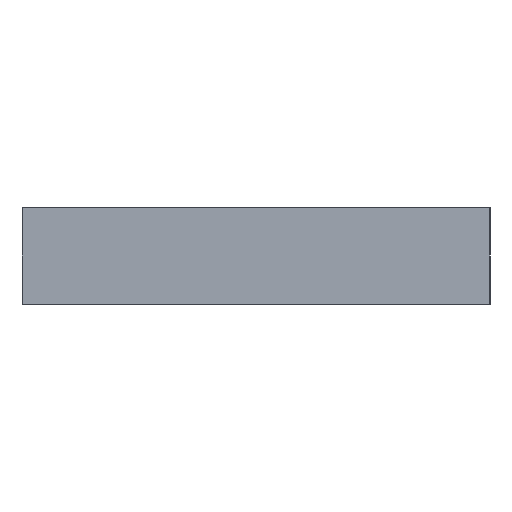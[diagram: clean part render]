
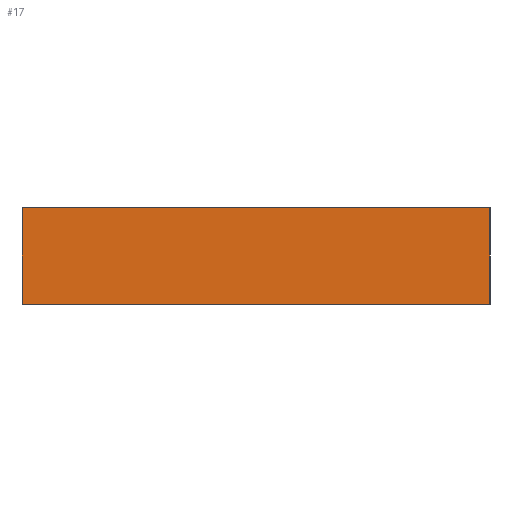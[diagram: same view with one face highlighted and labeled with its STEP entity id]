
A CAD part, left-side view. The second image highlights one B-rep face of the part: STEP entity #17.
In plain terms, the highlighted planar face has unit normal (-1, 0, 0).
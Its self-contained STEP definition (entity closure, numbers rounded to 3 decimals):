
#17 = ADVANCED_FACE('',(#18),#32,.F.);
#18 = FACE_BOUND('',#19,.F.);
#19 = EDGE_LOOP('',(#20,#55,#83,#111));
#20 = ORIENTED_EDGE('',*,*,#21,.F.);
#21 = EDGE_CURVE('',#22,#24,#26,.T.);
#22 = VERTEX_POINT('',#23);
#23 = CARTESIAN_POINT('',(-169.,-6.,-66.));
#24 = VERTEX_POINT('',#25);
#25 = CARTESIAN_POINT('',(-169.,-6.,-6.));
#26 = SURFACE_CURVE('',#27,(#31,#43),.PCURVE_S1.);
#27 = LINE('',#28,#29);
#28 = CARTESIAN_POINT('',(-169.,-6.,-66.));
#29 = VECTOR('',#30,1.);
#30 = DIRECTION('',(0.,0.,1.));
#31 = PCURVE('',#32,#37);
#32 = PLANE('',#33);
#33 = AXIS2_PLACEMENT_3D('',#34,#35,#36);
#34 = CARTESIAN_POINT('',(-169.,-6.,-66.));
#35 = DIRECTION('',(1.,0.,0.));
#36 = DIRECTION('',(0.,0.,1.));
#37 = DEFINITIONAL_REPRESENTATION('',(#38),#42);
#38 = LINE('',#39,#40);
#39 = CARTESIAN_POINT('',(0.,0.));
#40 = VECTOR('',#41,1.);
#41 = DIRECTION('',(1.,0.));
#42 = ( GEOMETRIC_REPRESENTATION_CONTEXT(2) 
PARAMETRIC_REPRESENTATION_CONTEXT() REPRESENTATION_CONTEXT('2D SPACE',''
  ) );
#43 = PCURVE('',#44,#49);
#44 = PLANE('',#45);
#45 = AXIS2_PLACEMENT_3D('',#46,#47,#48);
#46 = CARTESIAN_POINT('',(-169.,-6.,-66.));
#47 = DIRECTION('',(0.,1.,0.));
#48 = DIRECTION('',(0.,0.,1.));
#49 = DEFINITIONAL_REPRESENTATION('',(#50),#54);
#50 = LINE('',#51,#52);
#51 = CARTESIAN_POINT('',(0.,0.));
#52 = VECTOR('',#53,1.);
#53 = DIRECTION('',(1.,0.));
#54 = ( GEOMETRIC_REPRESENTATION_CONTEXT(2) 
PARAMETRIC_REPRESENTATION_CONTEXT() REPRESENTATION_CONTEXT('2D SPACE',''
  ) );
#55 = ORIENTED_EDGE('',*,*,#56,.T.);
#56 = EDGE_CURVE('',#22,#57,#59,.T.);
#57 = VERTEX_POINT('',#58);
#58 = CARTESIAN_POINT('',(-169.,286.,-66.));
#59 = SURFACE_CURVE('',#60,(#64,#71),.PCURVE_S1.);
#60 = LINE('',#61,#62);
#61 = CARTESIAN_POINT('',(-169.,-6.,-66.));
#62 = VECTOR('',#63,1.);
#63 = DIRECTION('',(0.,1.,0.));
#64 = PCURVE('',#32,#65);
#65 = DEFINITIONAL_REPRESENTATION('',(#66),#70);
#66 = LINE('',#67,#68);
#67 = CARTESIAN_POINT('',(0.,0.));
#68 = VECTOR('',#69,1.);
#69 = DIRECTION('',(0.,-1.));
#70 = ( GEOMETRIC_REPRESENTATION_CONTEXT(2) 
PARAMETRIC_REPRESENTATION_CONTEXT() REPRESENTATION_CONTEXT('2D SPACE',''
  ) );
#71 = PCURVE('',#72,#77);
#72 = PLANE('',#73);
#73 = AXIS2_PLACEMENT_3D('',#74,#75,#76);
#74 = CARTESIAN_POINT('',(-169.,-6.,-66.));
#75 = DIRECTION('',(0.,0.,1.));
#76 = DIRECTION('',(1.,0.,0.));
#77 = DEFINITIONAL_REPRESENTATION('',(#78),#82);
#78 = LINE('',#79,#80);
#79 = CARTESIAN_POINT('',(0.,0.));
#80 = VECTOR('',#81,1.);
#81 = DIRECTION('',(0.,1.));
#82 = ( GEOMETRIC_REPRESENTATION_CONTEXT(2) 
PARAMETRIC_REPRESENTATION_CONTEXT() REPRESENTATION_CONTEXT('2D SPACE',''
  ) );
#83 = ORIENTED_EDGE('',*,*,#84,.T.);
#84 = EDGE_CURVE('',#57,#85,#87,.T.);
#85 = VERTEX_POINT('',#86);
#86 = CARTESIAN_POINT('',(-169.,286.,-6.));
#87 = SURFACE_CURVE('',#88,(#92,#99),.PCURVE_S1.);
#88 = LINE('',#89,#90);
#89 = CARTESIAN_POINT('',(-169.,286.,-66.));
#90 = VECTOR('',#91,1.);
#91 = DIRECTION('',(0.,0.,1.));
#92 = PCURVE('',#32,#93);
#93 = DEFINITIONAL_REPRESENTATION('',(#94),#98);
#94 = LINE('',#95,#96);
#95 = CARTESIAN_POINT('',(0.,-292.));
#96 = VECTOR('',#97,1.);
#97 = DIRECTION('',(1.,0.));
#98 = ( GEOMETRIC_REPRESENTATION_CONTEXT(2) 
PARAMETRIC_REPRESENTATION_CONTEXT() REPRESENTATION_CONTEXT('2D SPACE',''
  ) );
#99 = PCURVE('',#100,#105);
#100 = PLANE('',#101);
#101 = AXIS2_PLACEMENT_3D('',#102,#103,#104);
#102 = CARTESIAN_POINT('',(-169.,286.,-66.));
#103 = DIRECTION('',(0.,1.,0.));
#104 = DIRECTION('',(0.,0.,1.));
#105 = DEFINITIONAL_REPRESENTATION('',(#106),#110);
#106 = LINE('',#107,#108);
#107 = CARTESIAN_POINT('',(0.,0.));
#108 = VECTOR('',#109,1.);
#109 = DIRECTION('',(1.,0.));
#110 = ( GEOMETRIC_REPRESENTATION_CONTEXT(2) 
PARAMETRIC_REPRESENTATION_CONTEXT() REPRESENTATION_CONTEXT('2D SPACE',''
  ) );
#111 = ORIENTED_EDGE('',*,*,#112,.F.);
#112 = EDGE_CURVE('',#24,#85,#113,.T.);
#113 = SURFACE_CURVE('',#114,(#118,#125),.PCURVE_S1.);
#114 = LINE('',#115,#116);
#115 = CARTESIAN_POINT('',(-169.,-6.,-6.));
#116 = VECTOR('',#117,1.);
#117 = DIRECTION('',(0.,1.,0.));
#118 = PCURVE('',#32,#119);
#119 = DEFINITIONAL_REPRESENTATION('',(#120),#124);
#120 = LINE('',#121,#122);
#121 = CARTESIAN_POINT('',(60.,0.));
#122 = VECTOR('',#123,1.);
#123 = DIRECTION('',(0.,-1.));
#124 = ( GEOMETRIC_REPRESENTATION_CONTEXT(2) 
PARAMETRIC_REPRESENTATION_CONTEXT() REPRESENTATION_CONTEXT('2D SPACE',''
  ) );
#125 = PCURVE('',#126,#131);
#126 = PLANE('',#127);
#127 = AXIS2_PLACEMENT_3D('',#128,#129,#130);
#128 = CARTESIAN_POINT('',(-169.,-6.,-6.));
#129 = DIRECTION('',(0.,0.,1.));
#130 = DIRECTION('',(1.,0.,0.));
#131 = DEFINITIONAL_REPRESENTATION('',(#132),#136);
#132 = LINE('',#133,#134);
#133 = CARTESIAN_POINT('',(0.,0.));
#134 = VECTOR('',#135,1.);
#135 = DIRECTION('',(0.,1.));
#136 = ( GEOMETRIC_REPRESENTATION_CONTEXT(2) 
PARAMETRIC_REPRESENTATION_CONTEXT() REPRESENTATION_CONTEXT('2D SPACE',''
  ) );
